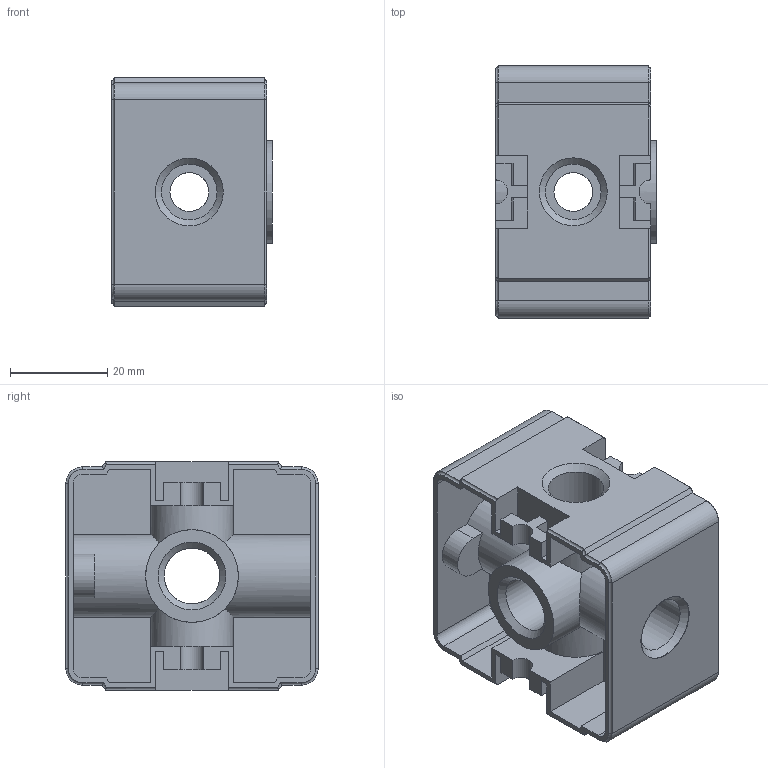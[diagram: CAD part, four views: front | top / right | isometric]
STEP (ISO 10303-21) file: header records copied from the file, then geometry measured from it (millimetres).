
FILE_DESCRIPTION((''),'2;1');
FILE_NAME('K:\ZEICHNG\Kunden Modelle\Multifix Steps\NL.2\Z.11.stp','2010-03-15T13:11:26',('DDruske'),(''),'Autodesk Inventor 2009','Autodesk Inventor 2009','');
FILE_SCHEMA(('AUTOMOTIVE_DESIGN { 1 0 10303 214 1 1 1 1 }'));
Length unit declared in the file: millimetre
Products named in the file (1): Z.11
Bounding box: 33.1 x 52 x 47 mm (x, y, z)
Volume: 25797.8 mm3; surface area: 22445.6 mm2
Topology: 1 solids, 1 shells, 210 faces, 575 edges, 372 vertices
Faces by surface type: plane 126, cylinder 69, torus 8, cone 7
Full cylindrical faces by diameter (mm): 8 x4, 8.566 x1, 10 x1, 11.445 x4, 14 x1, 15.7 x1, 19.1 x1, 19.2 x1, 21.2 x1
Entity records: 6944 total; most frequent: CARTESIAN_POINT 1639, ORIENTED_EDGE 1086, DIRECTION 1084, EDGE_CURVE 543, VECTOR 396, LINE 396, VERTEX_POINT 363, AXIS2_PLACEMENT_3D 344
